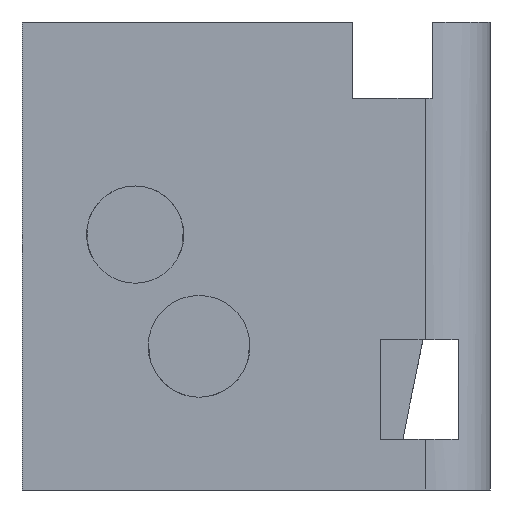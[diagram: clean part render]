
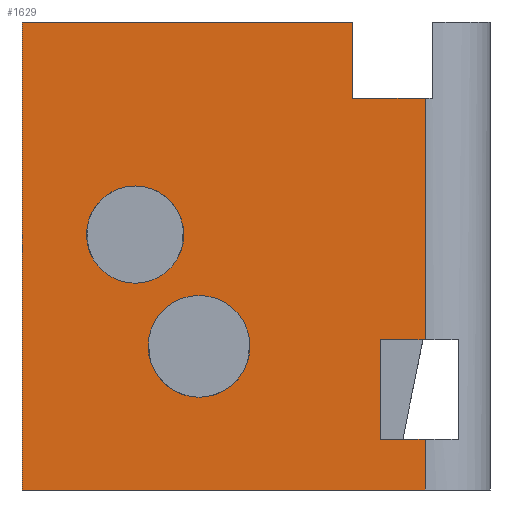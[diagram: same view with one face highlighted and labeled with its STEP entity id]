
A CAD part, left-side view. The second image highlights one B-rep face of the part: STEP entity #1629.
In plain terms, the highlighted planar face has unit normal (-1, 0, 0).
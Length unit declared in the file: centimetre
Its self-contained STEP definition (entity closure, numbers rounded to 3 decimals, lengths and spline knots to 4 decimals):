
#42 = DIRECTION ( 'NONE',  ( -1., 0., 0. ) ) ;
#44 = CARTESIAN_POINT ( 'NONE',  ( 0., 138.6081, 1000. ) ) ;
#58 = ORIENTED_EDGE ( 'NONE', *, *, #314, .T. ) ;
#62 = ORIENTED_EDGE ( 'NONE', *, *, #711, .F. ) ;
#67 = CARTESIAN_POINT ( 'NONE',  ( 0., 621.597, 306.9842 ) ) ;
#94 = CARTESIAN_POINT ( 'NONE',  ( 0., 758.2754, 649.6806 ) ) ;
#106 = LINE ( 'NONE', #235, #718 ) ;
#109 = CARTESIAN_POINT ( 'NONE',  ( 0., 234.6374, 321.4393 ) ) ;
#120 = CARTESIAN_POINT ( 'NONE',  ( 0., 1000., 0. ) ) ;
#128 = CIRCLE ( 'NONE', #553, 108.7132 ) ;
#136 = LINE ( 'NONE', #1641, #919 ) ;
#139 = DIRECTION ( 'NONE',  ( 1., 0., 0. ) ) ;
#165 = DIRECTION ( 'NONE',  ( 0., 0., 1. ) ) ;
#170 = DIRECTION ( 'NONE',  ( -1., 0., 0. ) ) ;
#178 = CARTESIAN_POINT ( 'NONE',  ( 0., 758.2754, 545.7953 ) ) ;
#179 = DIRECTION ( 'NONE',  ( 0., 1., 0. ) ) ;
#198 = CARTESIAN_POINT ( 'NONE',  ( 0., 138.6081, 321.4393 ) ) ;
#203 = CARTESIAN_POINT ( 'NONE',  ( 0., 138.6081, 108.4946 ) ) ;
#214 = CARTESIAN_POINT ( 'NONE',  ( 0., 234.6374, 108.4946 ) ) ;
#228 = VERTEX_POINT ( 'NONE', #787 ) ;
#235 = CARTESIAN_POINT ( 'NONE',  ( 0., 122.9786, 837.2 ) ) ;
#236 = ORIENTED_EDGE ( 'NONE', *, *, #1131, .F. ) ;
#249 = ORIENTED_EDGE ( 'NONE', *, *, #1067, .T. ) ;
#288 = VERTEX_POINT ( 'NONE', #109 ) ;
#294 = CIRCLE ( 'NONE', #548, 103.8853 ) ;
#299 = ORIENTED_EDGE ( 'NONE', *, *, #873, .F. ) ;
#314 = EDGE_CURVE ( 'NONE', #1549, #1656, #1338, .T. ) ;
#323 = VECTOR ( 'NONE', #1684, 100. ) ;
#325 = AXIS2_PLACEMENT_3D ( 'NONE', #405, #1492, #961 ) ;
#343 = CARTESIAN_POINT ( 'NONE',  ( 0., 621.597, 415.6974 ) ) ;
#361 = DIRECTION ( 'NONE',  ( -1., 0., 0. ) ) ;
#405 = CARTESIAN_POINT ( 'NONE',  ( 0., 758.2754, 545.7953 ) ) ;
#411 = CARTESIAN_POINT ( 'NONE',  ( 0., 1000., 1000. ) ) ;
#416 = EDGE_CURVE ( 'NONE', #1307, #677, #1255, .T. ) ;
#422 = DIRECTION ( 'NONE',  ( 0., 0., -1. ) ) ;
#428 = EDGE_CURVE ( 'NONE', #228, #545, #136, .T. ) ;
#458 = CARTESIAN_POINT ( 'NONE',  ( 0., 1000., 1000. ) ) ;
#463 = VECTOR ( 'NONE', #1449, 100. ) ;
#465 = CIRCLE ( 'NONE', #978, 108.7132 ) ;
#491 = EDGE_CURVE ( 'NONE', #703, #620, #1138, .T. ) ;
#511 = VERTEX_POINT ( 'NONE', #343 ) ;
#545 = VERTEX_POINT ( 'NONE', #1411 ) ;
#548 = AXIS2_PLACEMENT_3D ( 'NONE', #178, #42, #583 ) ;
#553 = AXIS2_PLACEMENT_3D ( 'NONE', #1023, #361, #1303 ) ;
#583 = DIRECTION ( 'NONE',  ( 0., 0., 1. ) ) ;
#585 = DIRECTION ( 'NONE',  ( 0., 0., 1. ) ) ;
#600 = AXIS2_PLACEMENT_3D ( 'NONE', #411, #139, #422 ) ;
#620 = VERTEX_POINT ( 'NONE', #203 ) ;
#629 = ORIENTED_EDGE ( 'NONE', *, *, #1457, .F. ) ;
#641 = VECTOR ( 'NONE', #1758, 100. ) ;
#659 = FACE_BOUND ( 'NONE', #1191, .T. ) ;
#670 = FACE_OUTER_BOUND ( 'NONE', #884, .T. ) ;
#676 = DIRECTION ( 'NONE',  ( 0., 0., 1. ) ) ;
#677 = VERTEX_POINT ( 'NONE', #895 ) ;
#703 = VERTEX_POINT ( 'NONE', #214 ) ;
#707 = CARTESIAN_POINT ( 'NONE',  ( 0., 1000., 1000. ) ) ;
#711 = EDGE_CURVE ( 'NONE', #288, #703, #1743, .T. ) ;
#715 = ORIENTED_EDGE ( 'NONE', *, *, #416, .T. ) ;
#718 = VECTOR ( 'NONE', #1038, 100. ) ;
#767 = EDGE_CURVE ( 'NONE', #1656, #228, #106, .T. ) ;
#787 = CARTESIAN_POINT ( 'NONE',  ( 0., 293.1924, 837.2 ) ) ;
#795 = EDGE_LOOP ( 'NONE', ( #299, #629 ) ) ;
#852 = DIRECTION ( 'NONE',  ( 0., -1., 0. ) ) ;
#867 = LINE ( 'NONE', #458, #1528 ) ;
#873 = EDGE_CURVE ( 'NONE', #1139, #1739, #1098, .T. ) ;
#882 = CARTESIAN_POINT ( 'NONE',  ( 0., 66.5352, 108.4946 ) ) ;
#884 = EDGE_LOOP ( 'NONE', ( #58, #1442, #1245, #1095, #1265, #715, #249, #1361, #62, #1020 ) ) ;
#895 = CARTESIAN_POINT ( 'NONE',  ( 0., 138.6081, 0. ) ) ;
#919 = VECTOR ( 'NONE', #676, 100. ) ;
#920 = CARTESIAN_POINT ( 'NONE',  ( 0., 1000., 1000. ) ) ;
#924 = CARTESIAN_POINT ( 'NONE',  ( 0., 234.6374, 108.4946 ) ) ;
#961 = DIRECTION ( 'NONE',  ( 0., 0., 1. ) ) ;
#966 = EDGE_CURVE ( 'NONE', #511, #1565, #465, .T. ) ;
#978 = AXIS2_PLACEMENT_3D ( 'NONE', #67, #170, #165 ) ;
#991 = LINE ( 'NONE', #1545, #1760 ) ;
#1020 = ORIENTED_EDGE ( 'NONE', *, *, #1077, .F. ) ;
#1023 = CARTESIAN_POINT ( 'NONE',  ( 0., 621.597, 306.9842 ) ) ;
#1037 = EDGE_CURVE ( 'NONE', #1588, #545, #867, .T. ) ;
#1038 = DIRECTION ( 'NONE',  ( 0., 1., 0. ) ) ;
#1041 = EDGE_CURVE ( 'NONE', #1588, #1307, #1699, .T. ) ;
#1067 = EDGE_CURVE ( 'NONE', #677, #620, #1262, .T. ) ;
#1077 = EDGE_CURVE ( 'NONE', #1549, #288, #991, .T. ) ;
#1090 = CARTESIAN_POINT ( 'NONE',  ( 0., 1000., 0. ) ) ;
#1095 = ORIENTED_EDGE ( 'NONE', *, *, #1037, .F. ) ;
#1098 = CIRCLE ( 'NONE', #325, 103.8853 ) ;
#1131 = EDGE_CURVE ( 'NONE', #1565, #511, #128, .T. ) ;
#1138 = LINE ( 'NONE', #882, #323 ) ;
#1139 = VERTEX_POINT ( 'NONE', #94 ) ;
#1191 = EDGE_LOOP ( 'NONE', ( #1489, #236 ) ) ;
#1205 = CARTESIAN_POINT ( 'NONE',  ( 0., 138.6081, 1000. ) ) ;
#1218 = CARTESIAN_POINT ( 'NONE',  ( 0., 138.6081, 837.2 ) ) ;
#1245 = ORIENTED_EDGE ( 'NONE', *, *, #428, .T. ) ;
#1255 = LINE ( 'NONE', #1090, #1696 ) ;
#1262 = LINE ( 'NONE', #44, #1614 ) ;
#1265 = ORIENTED_EDGE ( 'NONE', *, *, #1041, .T. ) ;
#1303 = DIRECTION ( 'NONE',  ( 0., 0., 1. ) ) ;
#1307 = VERTEX_POINT ( 'NONE', #120 ) ;
#1338 = LINE ( 'NONE', #1205, #641 ) ;
#1361 = ORIENTED_EDGE ( 'NONE', *, *, #491, .F. ) ;
#1411 = CARTESIAN_POINT ( 'NONE',  ( 0., 293.1924, 1000. ) ) ;
#1417 = DIRECTION ( 'NONE',  ( 0., 0., -1. ) ) ;
#1442 = ORIENTED_EDGE ( 'NONE', *, *, #767, .T. ) ;
#1449 = DIRECTION ( 'NONE',  ( 0., 0., -1. ) ) ;
#1457 = EDGE_CURVE ( 'NONE', #1739, #1139, #294, .T. ) ;
#1466 = VECTOR ( 'NONE', #1417, 100. ) ;
#1489 = ORIENTED_EDGE ( 'NONE', *, *, #966, .F. ) ;
#1492 = DIRECTION ( 'NONE',  ( -1., 0., 0. ) ) ;
#1509 = PLANE ( 'NONE',  #600 ) ;
#1528 = VECTOR ( 'NONE', #852, 100. ) ;
#1545 = CARTESIAN_POINT ( 'NONE',  ( 0., 66.5352, 321.4393 ) ) ;
#1549 = VERTEX_POINT ( 'NONE', #198 ) ;
#1565 = VERTEX_POINT ( 'NONE', #1574 ) ;
#1574 = CARTESIAN_POINT ( 'NONE',  ( 0., 621.597, 198.271 ) ) ;
#1588 = VERTEX_POINT ( 'NONE', #920 ) ;
#1614 = VECTOR ( 'NONE', #585, 100. ) ;
#1616 = FACE_BOUND ( 'NONE', #795, .T. ) ;
#1629 = ADVANCED_FACE ( 'NONE', ( #1616, #659, #670 ), #1509, .F. ) ;
#1631 = DIRECTION ( 'NONE',  ( 0., -1., 0. ) ) ;
#1641 = CARTESIAN_POINT ( 'NONE',  ( 0., 293.1924, 837.2 ) ) ;
#1656 = VERTEX_POINT ( 'NONE', #1218 ) ;
#1657 = CARTESIAN_POINT ( 'NONE',  ( 0., 758.2754, 441.9099 ) ) ;
#1684 = DIRECTION ( 'NONE',  ( 0., -1., 0. ) ) ;
#1696 = VECTOR ( 'NONE', #1631, 100. ) ;
#1699 = LINE ( 'NONE', #707, #1466 ) ;
#1739 = VERTEX_POINT ( 'NONE', #1657 ) ;
#1743 = LINE ( 'NONE', #924, #463 ) ;
#1758 = DIRECTION ( 'NONE',  ( 0., 0., 1. ) ) ;
#1760 = VECTOR ( 'NONE', #179, 100. ) ;
